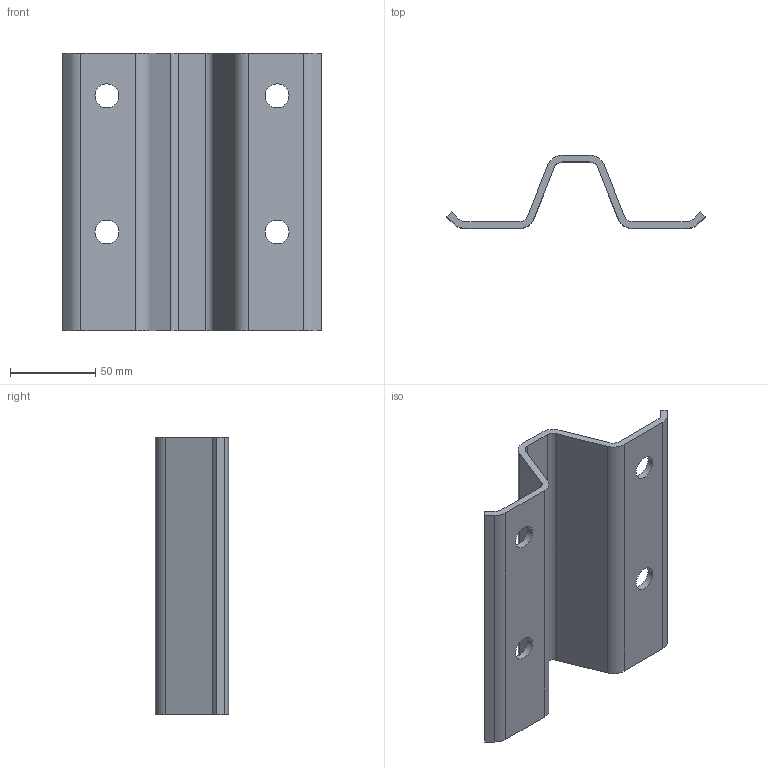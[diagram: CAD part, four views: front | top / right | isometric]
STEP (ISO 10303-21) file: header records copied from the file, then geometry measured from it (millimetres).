
FILE_DESCRIPTION(/* description */ (''),/* implementation_level */ '2;1');
FILE_NAME(/* name */ 'ZC185.stp',/* time_stamp */ '2023-07-03T11:18:12+02:00',/* author */ ('woriedl'),/* organization */ (''),/* preprocessor_version */ 'ST-DEVELOPER v19.2',/* originating_system */ 'AutoCAD Mechanical',/* authorisation */ '');
FILE_SCHEMA (('AUTOMOTIVE_DESIGN { 1 0 10303 214 3 1 1 }'));
Length unit declared in the file: centimetre
Products named in the file (1): Product
Bounding box: 151.72 x 43 x 163 mm (x, y, z)
Volume: 129126.4 mm3; surface area: 68185.5 mm2
Topology: 1 solids, 1 shells, 34 faces, 96 edges, 64 vertices
Faces by surface type: plane 18, cylinder 16
Full cylindrical faces by diameter (mm): 14 x4
Entity records: 1151 total; most frequent: DIRECTION 198, CARTESIAN_POINT 195, ORIENTED_EDGE 192, EDGE_CURVE 96, AXIS2_PLACEMENT_3D 67, LINE 64, VECTOR 64, VERTEX_POINT 64
